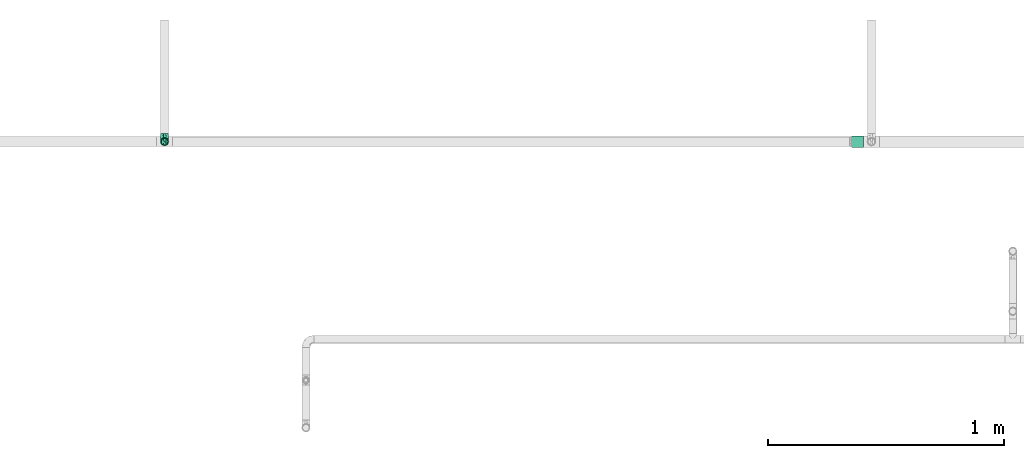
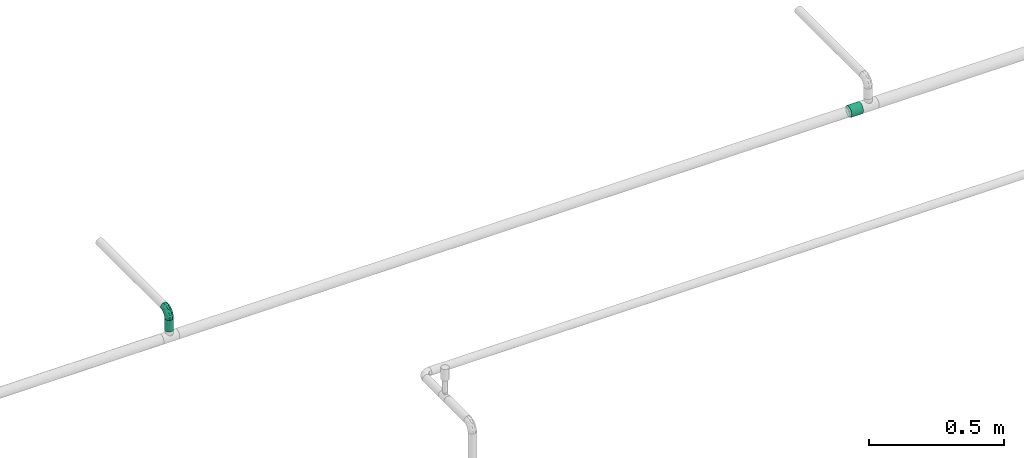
# One storey, part 29 of 51: 2 flow segments, 1 flow fitting.
"""IFC2X3 building model written with IfcOpenShell, lengths in millimetres."""

import ifcopenshell
import ifcopenshell.guid

model = None  # the IFC model being written
_history = None  # IfcOwnerHistory: only IFC2X3 demands one
_inside = {}  # id of a spatial element -> (the spatial element, [elements in it])
_under = {}  # id of a project, library or spatial element -> (it, [spatial elements below it])
_declared = {}  # id of a project -> (the project, [libraries it declares])
_typed = {}  # id of a type object -> (the type object, [elements of that type])
_made_of = {}  # id of a material, layer set ... -> (it, [elements and type objects made of it])


def new_model(schema):
    """Start an empty IFC model of exactly this schema.

    Asked for "IFC4X3", IfcOpenShell would pick the latest addendum, in which some entities
    have other attributes; the version numbers below select the first issue.
    IFC2X3 requires an IfcOwnerHistory on every rooted entity: one is made here for all.
    """
    global model, _history
    if schema == "IFC4X3":
        model = ifcopenshell.file(schema_version=(4, 3, 0, 0))
    else:
        model = ifcopenshell.file(schema=schema)
    _inside.clear()
    _under.clear()
    _declared.clear()
    _typed.clear()
    _made_of.clear()
    _history = None
    if model.schema == "IFC2X3":
        org = make("IfcOrganization", Name="unknown")
        user = make(
            "IfcPersonAndOrganization",
            ThePerson=make("IfcPerson", FamilyName="unknown"),
            TheOrganization=org,
        )
        app = make(
            "IfcApplication",
            ApplicationDeveloper=org,
            Version="unknown",
            ApplicationFullName="unknown",
            ApplicationIdentifier="unknown",
        )
        _history = make(
            "IfcOwnerHistory",
            OwningUser=user,
            OwningApplication=app,
            ChangeAction="ADDED",
            CreationDate=0,
        )
    return model


def make(cls, **values):
    """One entity of the class cls with the attributes given. An attribute that is None is left unset."""
    return model.create_entity(
        cls, **{name: value for name, value in values.items() if value is not None}
    )


def entity(cls, *values):
    """Any entity or typed value of the class cls, its attributes in the order of the schema. None: left unset."""
    e = model.create_entity(cls)
    for i, value in enumerate(values):
        if value is not None:
            e[i] = value
    return e


def rooted(cls, **values):
    """An entity with a GlobalId (a new one), such as an element, a storey or a relation."""
    return make(cls, GlobalId=ifcopenshell.guid.new(), OwnerHistory=_history, **values)


def si_unit(unit_type, name, prefix=None):
    """IfcSIUnit, for example si_unit("LENGTHUNIT", "METRE", prefix="MILLI")."""
    return make("IfcSIUnit", UnitType=unit_type, Prefix=prefix, Name=name)


def converted_unit(unit_type, name, factor, base, dimensions=None, offset=None):
    """IfcConversionBasedUnit, such as the inch: factor (a typed value) times the base unit."""
    return make(
        "IfcConversionBasedUnit"
        if offset is None
        else "IfcConversionBasedUnitWithOffset",
        ConversionOffset=offset,
        Dimensions=None
        if dimensions is None
        else entity("IfcDimensionalExponents", *dimensions),
        UnitType=unit_type,
        Name=name,
        ConversionFactor=make(
            "IfcMeasureWithUnit", ValueComponent=factor, UnitComponent=base
        ),
    )


def derived_unit(unit_type, elements):
    """IfcDerivedUnit: a product of units, each with its exponent."""
    return make(
        "IfcDerivedUnit",
        Elements=[
            make("IfcDerivedUnitElement", Unit=unit, Exponent=power)
            for unit, power in elements
        ],
        UnitType=unit_type,
    )


def assignment(units):
    """IfcUnitAssignment: the units of a project."""
    return None if units is None else make("IfcUnitAssignment", Units=units)


def point(xyz):
    """IfcCartesianPoint."""
    return None if xyz is None else make("IfcCartesianPoint", Coordinates=xyz)


def direction(xyz):
    """IfcDirection."""
    return None if xyz is None else make("IfcDirection", DirectionRatios=xyz)


def frame(location, z_axis=None, x_axis=None):
    """IfcAxis2Placement3D, a coordinate frame: its origin and axes. An axis left out is left unset."""
    return make(
        "IfcAxis2Placement3D",
        Location=point(location),
        Axis=direction(z_axis),
        RefDirection=direction(x_axis),
    )


def frame_2d(location, x_axis=None):
    """IfcAxis2Placement2D, a coordinate frame in the plane: its origin and x axis."""
    return make(
        "IfcAxis2Placement2D", Location=point(location), RefDirection=direction(x_axis)
    )


def origin_with_axes():
    """The frame at (0, 0, 0) with the z axis (0, 0, 1) and the x axis (1, 0, 0) written out."""
    return frame((0.0, 0.0, 0.0), z_axis=(0.0, 0.0, 1.0), x_axis=(1.0, 0.0, 0.0))


def origin_2d_with_axis():
    """The frame at (0, 0) in the plane with the x axis (1, 0) written out."""
    return frame_2d((0.0, 0.0), x_axis=(1.0, 0.0))


def place(relative_to, where):
    """IfcLocalPlacement: puts the frame where relative to a parent placement (None: the world)."""
    return make(
        "IfcLocalPlacement", PlacementRelTo=relative_to, RelativePlacement=where
    )


def context(
    kind, dimensions, precision=None, world=None, true_north=None, identifier=None
):
    """IfcGeometricRepresentationContext, for example the 3D "Model" context."""
    return make(
        "IfcGeometricRepresentationContext",
        ContextIdentifier=identifier,
        ContextType=kind,
        CoordinateSpaceDimension=dimensions,
        Precision=precision,
        WorldCoordinateSystem=world,
        TrueNorth=true_north,
    )


def subcontext(parent, identifier, kind, view, scale=None):
    """IfcGeometricRepresentationSubContext, for example "Body" below "Model"."""
    return make(
        "IfcGeometricRepresentationSubContext",
        ContextIdentifier=identifier,
        ContextType=kind,
        ParentContext=parent,
        TargetScale=scale,
        TargetView=view,
    )


def project(units=None, contexts=None):
    """IfcProject with its units and contexts."""
    return rooted(
        "IfcProject",
        Name="project",
        RepresentationContexts=contexts,
        UnitsInContext=assignment(units),
    )


def spatial(cls, under=None, at=None, **own):
    """A site, building, storey or space (cls), placed at a placement, below another one or the project."""
    s = rooted(cls, ObjectPlacement=at, **own)
    if under is not None:
        _under.setdefault(under.id(), (under, []))[1].append(s)
    return s


def profile(cls, at=None, kind="AREA", **sizes):
    """A parametric profile (cls). Its sizes go by their IFC names, for example OverallWidth=200.0."""
    return make(cls, ProfileType=kind, Position=at, **sizes)


def hollow_circle(**sizes):
    """IfcCircleHollowProfileDef."""
    return profile("IfcCircleHollowProfileDef", **sizes)


def extrude(swept, where, along, depth):
    """IfcExtrudedAreaSolid: the profile swept, set in the frame where, extruded along a direction by depth."""
    return make(
        "IfcExtrudedAreaSolid",
        SweptArea=swept,
        Position=where,
        ExtrudedDirection=direction(along),
        Depth=depth,
    )


def faces_of(points, faces, orient=None, outer=None):
    """IfcFace entities. A face is a list of loops; a loop is a list of indices into points, from 0.

    orient and outer hold one flag for each loop. By default every Orientation is true, the
    first loop of a face is its IfcFaceOuterBound and the others are IfcFaceBound.
    """
    made = []
    for i, loops in enumerate(faces):
        bounds = []
        for j, loop in enumerate(loops):
            is_outer = j == 0 if outer is None else outer[i][j]
            bounds.append(
                make(
                    "IfcFaceOuterBound" if is_outer else "IfcFaceBound",
                    Bound=make("IfcPolyLoop", Polygon=[points[k] for k in loop]),
                    Orientation=True if orient is None else orient[i][j],
                )
            )
        made.append(make("IfcFace", Bounds=bounds))
    return made


def open_shell(faces, orient=None, outer=None):
    """The faces of one IfcOpenShell. surface_model builds it on its shared points."""
    return ("IfcOpenShell", faces, orient, outer)


def surface_model(cls, points, shells):
    """IfcFaceBasedSurfaceModel or IfcShellBasedSurfaceModel (cls): surfaces that need not close."""
    shared = [point(p) for p in points]
    made = [make(c, CfsFaces=faces_of(shared, fs, o, b)) for c, fs, o, b in shells]
    if cls == "IfcFaceBasedSurfaceModel":
        return make(cls, FbsmFaces=made)
    return make(cls, SbsmBoundary=made)


def shape(context_of_items, identifier, shape_type, items):
    """IfcShapeRepresentation: the items that make up one representation, for example the "Body"."""
    return make(
        "IfcShapeRepresentation",
        ContextOfItems=context_of_items,
        RepresentationIdentifier=identifier,
        RepresentationType=shape_type,
        Items=items,
    )


def source(mapping_origin, context_of_items, identifier, shape_type, items):
    """IfcRepresentationMap: a shape defined once, which mapped items show again and again."""
    return make(
        "IfcRepresentationMap",
        MappingOrigin=mapping_origin,
        MappedRepresentation=shape(context_of_items, identifier, shape_type, items),
    )


def transform(
    local_origin,
    x_axis=None,
    y_axis=None,
    z_axis=None,
    scale=None,
    scale2=None,
    scale3=None,
    uniform=True,
):
    """IfcCartesianTransformationOperator3D, or its non-uniform kind. x_axis, y_axis, z_axis: its Axis1, 2, 3."""
    if uniform:
        return make(
            "IfcCartesianTransformationOperator3D",
            Axis1=direction(x_axis),
            Axis2=direction(y_axis),
            LocalOrigin=point(local_origin),
            Scale=scale,
            Axis3=direction(z_axis),
        )
    return make(
        "IfcCartesianTransformationOperator3DnonUniform",
        Axis1=direction(x_axis),
        Axis2=direction(y_axis),
        LocalOrigin=point(local_origin),
        Scale=scale,
        Axis3=direction(z_axis),
        Scale2=scale2,
        Scale3=scale3,
    )


def mapped(mapping_source, mapping_target):
    """IfcMappedItem: shows the shape of a source again, moved by a transform."""
    return make(
        "IfcMappedItem", MappingSource=mapping_source, MappingTarget=mapping_target
    )


def made_of(thing, what):
    """Note that an element or type object is made of a material, layer set ...; save() writes the relation."""
    if what is not None:
        _made_of.setdefault(what.id(), (what, []))[1].append(thing)
    return thing


def type_object(cls, material=None, **own):
    """A type object (cls), such as IfcWallType, which elements share."""
    return made_of(rooted(cls, **own), material)


def element(
    cls,
    number,
    at=None,
    inside=None,
    cuts=None,
    type_object=None,
    material=None,
    context=None,
    identifier="Body",
    shape_type=None,
    held_by="IfcProductDefinitionShape",
    body=None,
    shapes=None,
    **own,
):
    """One element of the class cls, such as IfcWall. Its Tag is "e" and its number.

    at: its placement. inside: the storey or other place that contains it. cuts: it is an
    opening in that element (IfcRelVoidsElement). A single representation is given by context,
    identifier, shape_type and body (its items); several are given by shapes. held_by: the class
    of the entity that holds the representations. save() writes the other relations.
    """
    e = rooted(cls, Tag="e%d" % number, ObjectPlacement=at, **own)
    if body is not None:
        shapes = [shape(context, identifier, shape_type, body)]
    if shapes is not None:
        e.Representation = make(held_by, Representations=shapes)
    if inside is not None:
        _inside.setdefault(inside.id(), (inside, []))[1].append(e)
    if cuts is not None:
        rooted(
            "IfcRelVoidsElement", RelatingBuildingElement=cuts, RelatedOpeningElement=e
        )
    if type_object is not None:
        _typed.setdefault(type_object.id(), (type_object, []))[1].append(e)
    return made_of(e, material)


def aggregate(whole, parts):
    """IfcRelAggregates: a whole, such as a stair, and the parts it consists of."""
    return rooted("IfcRelAggregates", RelatingObject=whole, RelatedObjects=parts)


def save(model, path):
    """Write the relations noted so far, then the file.

    IfcRelAggregates (storeys below a building ...), IfcRelContainedInSpatialStructure (elements
    in a storey), IfcRelDefinesByType, IfcRelAssociatesMaterial and IfcRelDeclares: one each for
    every whole, place, type object, material and project.
    """
    for whole, parts in _under.values():
        aggregate(whole, parts)
    for where, things in _inside.values():
        rooted(
            "IfcRelContainedInSpatialStructure",
            RelatedElements=things,
            RelatingStructure=where,
        )
    for kind, things in _typed.values():
        rooted("IfcRelDefinesByType", RelatedObjects=things, RelatingType=kind)
    for what, things in _made_of.values():
        rooted("IfcRelAssociatesMaterial", RelatedObjects=things, RelatingMaterial=what)
    for by, libraries in _declared.values():
        rooted("IfcRelDeclares", RelatingContext=by, RelatedDefinitions=libraries)
    model.write(path)


model = new_model("IFC2X3")

# Units and contexts
model_context = context("Model", 3, precision=0.01, world=frame((0.0, 4.29681676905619e-09, 0.0)), true_north=direction((4.01073788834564e-13, 1.0)))
plan_context = context("Plan", 3, precision=0.01, world=frame((0.0, 4.29681676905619e-09, 0.0)), true_north=direction((4.01073788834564e-13, 1.0)))
body_context = subcontext(model_context, "Body", "Model", "MODEL_VIEW")
ifc_project = project(units=[converted_unit("PLANEANGLEUNIT", "DEGREE", entity("IfcPositiveLengthMeasure", 0.0174532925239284), si_unit("PLANEANGLEUNIT", "RADIAN"), dimensions=[0, 0, 0, 0, 0, 0, 0]), si_unit("AREAUNIT", "SQUARE_METRE"), si_unit("LENGTHUNIT", "METRE", prefix="MILLI"), si_unit("MASSUNIT", "GRAM", prefix="KILO"), si_unit("POWERUNIT", "WATT"), si_unit("PRESSUREUNIT", "PASCAL"), si_unit("FORCEUNIT", "NEWTON", prefix="KILO"), si_unit("ELECTRICVOLTAGEUNIT", "VOLT"), si_unit("ELECTRICCURRENTUNIT", "AMPERE"), si_unit("THERMODYNAMICTEMPERATUREUNIT", "DEGREE_CELSIUS"), si_unit("TIMEUNIT", "SECOND"), si_unit("VOLUMEUNIT", "CUBIC_METRE"), derived_unit("LINEARVELOCITYUNIT", [(si_unit("LENGTHUNIT", "METRE"), 1), (si_unit("TIMEUNIT", "SECOND"), -1)]), derived_unit("VOLUMETRICFLOWRATEUNIT", [(si_unit("VOLUMEUNIT", "CUBIC_METRE"), 1), (si_unit("TIMEUNIT", "SECOND"), -1)]), derived_unit("THERMALTRANSMITTANCEUNIT", [(si_unit("POWERUNIT", "WATT"), 1), (si_unit("THERMODYNAMICTEMPERATUREUNIT", "KELVIN"), -1), (si_unit("AREAUNIT", "SQUARE_METRE"), -1)]), derived_unit("SOUNDPRESSUREUNIT", [(si_unit("PRESSUREUNIT", "PASCAL"), 1)])], contexts=[model_context, plan_context])

# Site, building, storey
site_placement = place(None, frame((0.0, -4.29681676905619e-09, 0.0), z_axis=(0.0, 0.0, 1.0), x_axis=(1.0, 0.0, 0.0)))
site = spatial("IfcSite", under=ifc_project, at=site_placement, Name="ENGM", CompositionType="ELEMENT")
building_placement = place(site_placement, frame((0.0, 4.29681676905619e-09, 0.0), z_axis=(0.0, 0.0, 1.0), x_axis=(1.0, 0.0, 0.0)))
building = spatial("IfcBuilding", under=site, at=building_placement, Name="TH", CompositionType="ELEMENT")
storey_placement = place(building_placement, frame((0.0, 0.0, 210200.0), z_axis=(0.0, 0.0, 1.0), x_axis=(1.0, 0.0, 0.0)))
storey = spatial("IfcBuildingStorey", under=building, at=storey_placement, Name="Nivå F - 0,7 m", CompositionType="ELEMENT", Elevation=210200.0)

# Flow fitting
pipe_fitting_type = type_object("IfcPipeFittingType", Name="magi_pipe_fe_elbow_short_001", PredefinedType="BEND")
shared_shape_1 = source(origin_with_axes(), body_context, "Body", "SurfaceModel", [
    surface_model("IfcShellBasedSurfaceModel", [(-33.8, 8.45, -14.63583), (-33.8, 4.37404, -16.32415), (-33.8, 11.9501, -11.9501), (-33.8, -11.9501, -11.9501), (-33.8, -14.63583, -8.45), (-33.8, -8.45, -14.63583), (-33.8, 0.0, -16.9), (-33.8, -4.37404, -16.32415), (-33.8, -4.37404, 16.32415), (-33.8, 0.0, 16.9), (-33.8, -8.45, 14.63583), (-33.8, 16.32415, -4.37404), (-33.8, 14.63583, -8.45), (-33.8, -16.32415, -4.37404), (-33.8, -16.9, 0.0), (-33.8, -16.32415, 4.37404), (-33.8, 11.9501, 11.9501), (-33.8, 14.63583, 8.45), (-33.8, 16.32415, 4.37404), (-33.8, 4.37404, 16.32415), (-33.8, 8.45, 14.63583), (-33.8, -14.63583, 8.45), (-33.8, -11.9501, 11.9501), (-33.8, 16.9, 0.0), (-11.9501, 33.8, -11.9501), (0.0, 33.8, -16.9), (-4.37404, 33.8, -16.32415), (-8.45, 33.8, -14.63583), (-14.63583, 33.8, -8.45), (-16.32415, 33.8, -4.37404), (14.63583, 33.8, -8.45), (8.45, 33.8, 14.63583), (16.32415, 33.8, -4.37404), (8.45, 33.8, -14.63583), (11.9501, 33.8, -11.9501), (4.37404, 33.8, -16.32415), (16.32415, 33.8, 4.37404), (16.9, 33.8, 0.0), (-11.9501, 33.8, 11.9501), (-16.32415, 33.8, 4.37404), (-14.63583, 33.8, 8.45), (-8.45, 33.8, 14.63583), (-4.37404, 33.8, 16.32415), (11.9501, 33.8, 11.9501), (14.63583, 33.8, 8.45), (0.0, 33.8, 16.9), (4.37404, 33.8, 16.32415), (-16.9, 33.8, 0.0), (-24.79389, -13.12945, 9.48721), (-22.19287, -9.75018, 12.59315), (-24.09897, -14.97035, 0.0), (-14.93934, -10.76256, 8.5297), (-22.46095, -14.75051, 5.27077), (14.75051, 22.46094, 5.27077), (11.9251, 13.23888, 4.33236), (13.04069, 14.39795, 0.0), (7.71387, 13.68847, 11.55891), (9.75018, 22.19287, 12.59315), (4.10169, 13.0571, 14.04018), (-24.84007, -6.39063, 15.2048), (-25.81779, -2.23879, 16.61097), (-23.66549, 2.59054, 16.87119), (-26.50418, 14.06512, 11.08152), (-24.21253, 17.66365, 7.72657), (-29.58514, 15.86957, 7.00283), (-6.17382, -7.5455, 0.0), (-13.23888, -11.9251, 4.33236), (-14.39795, -13.04069, 0.0), (-17.81434, 18.87373, 11.97104), (-6.30846, 29.15138, 15.82987), (-2.31622, 25.28002, 16.85849), (-29.23923, 10.23435, 13.77053), (-1.45439, -2.85688, 7.61475), (-0.28326, 0.34872, 10.09509), (-5.74484, -4.04709, 10.4122), (-4.41137, 11.31918, 16.59407), (-8.39727, 3.10034, 15.7812), (-1.72649, 9.1306, 15.53089), (-17.39909, 24.75344, 7.64977), (-26.19233, 20.0512, 0.0), (-28.14518, 17.29657, 4.25857), (-26.05147, 6.6281, 15.96447), (-5.87354, 16.61944, 16.86968), (-12.51807, 12.51807, 16.48937), (-10.06312, 7.38516, 16.81295), (-3.01882, 3.01882, 13.81718), (-13.0571, -4.10169, 14.04018), (-16.82553, -0.15166, 16.38038), (10.76256, 14.93934, 8.5297), (13.12945, 24.79389, 9.48721), (6.39063, 24.84007, 15.2048), (2.23879, 25.81779, 16.61097), (-13.68847, -7.71387, 11.55891), (14.97035, 24.09897, 0.0), (-7.30894, 22.89991, 16.09489), (-10.67958, 26.17414, 14.008), (-12.78295, 18.26924, 15.06066), (-13.88562, 22.45231, 12.93244), (-18.04944, 15.16501, 14.04434), (-23.11658, 20.08178, 4.02986), (-21.84989, 21.84989, 0.0), (-18.55817, 25.48277, 3.93065), (-13.95142, 26.94732, 11.03289), (-18.57098, 7.23906, 16.59756), (-16.58335, 4.14122, 16.89279), (-17.96666, 11.46709, 15.63151), (-9.84453, 17.54304, 16.18938), (0.15166, 16.82553, 16.38038), (-23.27207, 11.47201, 14.23154), (3.84842, 5.86994, 10.70473), (-8.0212, -7.54413, 7.93275), (1.00345, -2.19508, 4.57414), (5.13203, 3.01004, 5.90201), (5.24161, 1.7543, 2.53265), (8.70457, 7.04947, 3.99182), (-20.0512, 26.19233, 0.0), (8.4852, 8.76699, 7.09296), (-4.55488, -6.72064, 4.90681), (2.05031, -2.05031, 0.0), (7.5455, 6.17382, 0.0), (-26.75399, 2.1369, -16.845), (-14.61995, 24.73803, -11.27736), (-28.45274, -13.45335, -9.81895), (-26.00469, 6.63555, -15.96645), (-23.06726, 20.04573, -4.26202), (-13.80647, -4.26506, -14.17873), (-14.67501, -0.21081, -16.07388), (-6.7902, -0.2828, -13.8478), (-24.53586, 11.08096, -14.13417), (-26.72048, 14.00837, -11.05776), (10.0967, 24.44989, -12.75976), (5.83237, 21.40218, -15.03047), (6.66249, 28.54238, -15.38093), (-20.38182, 15.48705, -12.74596), (12.53268, 21.23441, -9.15363), (12.54494, 15.67504, -5.54878), (9.7522, 12.89279, -8.66343), (-15.65186, 19.64213, -13.01327), (-12.03528, 20.66498, -14.67665), (-15.61907, 15.61906, -14.83879), (-25.56551, -15.26206, 0.0), (-24.65452, -15.12934, -5.50955), (13.45335, 28.45274, -9.81895), (15.12934, 24.65452, -5.50955), (-7.35442, -8.31014, -5.65563), (-15.67504, -12.54494, -5.54878), (-24.44989, -10.0967, -12.75976), (0.16522, 0.41303, -9.71728), (-5.70658, -5.33066, -8.89288), (-5.13869, -2.37198, -11.53565), (-21.23441, -12.53268, -9.15363), (0.71146, 7.93863, -14.09382), (0.21081, 14.67501, -16.07388), (3.49291, 14.42772, -14.76381), (-24.89911, -2.13088, -16.591), (-28.54238, -6.66249, -15.38093), (-18.44386, -7.71663, -13.26957), (2.13088, 24.89911, -16.591), (-28.64342, 17.44413, -2.89318), (1.70017, -1.28722, -5.09504), (-16.57067, 26.81947, -7.36596), (-17.69055, 27.4263, -3.76405), (-12.89279, -9.7522, -8.66343), (-5.96611, 5.96611, -15.95814), (-20.53709, 20.09345, -8.28985), (-2.1369, 26.75399, -16.845), (-6.89872, 24.58781, -16.02578), (-10.60739, 26.53157, -13.98044), (-21.40218, -5.83237, -15.03047), (2.93192, 5.89627, -11.55917), (6.89393, 12.61842, -11.82233), (5.58056, 5.95325, -8.79455), (-3.99512, 18.61798, -16.89635), (8.31014, 7.35442, -5.65563), (-9.1383, 9.86148, -16.89041), (-9.99983, 16.02119, -16.39699), (-16.68576, 9.78031, -16.34199), (-27.01915, 16.61158, -7.12979), (15.26206, 25.56551, 0.0), (-18.61798, 3.99512, -16.89635), (-19.37495, 27.82495, 0.0), (-12.61842, -6.89393, -11.82233), (-18.84705, 19.14018, -10.96545)], [open_shell([[[0, 1, 2]], [[3, 4, 5]], [[6, 7, 5]], [[8, 9, 10]], [[1, 6, 2]], [[11, 12, 2]], [[4, 2, 6]], [[2, 13, 10]], [[5, 4, 6]], [[2, 4, 13]], [[14, 15, 13]], [[11, 2, 16]], [[11, 17, 18]], [[11, 16, 17]], [[19, 20, 16]], [[16, 2, 10]], [[19, 16, 10]], [[21, 22, 15]], [[22, 13, 15]], [[22, 10, 13]], [[10, 9, 19]], [[11, 18, 23]], [[24, 25, 26]], [[24, 26, 27]], [[24, 28, 29]], [[25, 24, 30]], [[31, 32, 24]], [[33, 30, 34]], [[33, 35, 25]], [[25, 30, 33]], [[32, 30, 24]], [[32, 36, 37]], [[38, 24, 29]], [[39, 40, 29]], [[40, 38, 29]], [[38, 41, 42]], [[38, 31, 24]], [[31, 38, 42]], [[36, 43, 44]], [[36, 32, 43]], [[31, 45, 46]], [[32, 31, 43]], [[42, 45, 31]], [[39, 29, 47]], [[22, 48, 49]], [[15, 14, 50]], [[51, 48, 52]], [[53, 54, 55]], [[48, 22, 21]], [[15, 52, 21]], [[56, 57, 58]], [[49, 10, 22]], [[49, 59, 10]], [[9, 60, 61]], [[62, 63, 64]], [[65, 66, 67]], [[57, 43, 31]], [[62, 68, 63]], [[42, 69, 70]], [[20, 71, 16]], [[8, 60, 9]], [[72, 73, 74]], [[75, 76, 77]], [[16, 62, 17]], [[40, 39, 78]], [[79, 23, 80]], [[64, 18, 17]], [[9, 61, 19]], [[19, 81, 20]], [[82, 83, 84]], [[74, 85, 86]], [[59, 86, 87]], [[88, 89, 57]], [[90, 31, 46]], [[44, 53, 36]], [[46, 45, 91]], [[54, 53, 88]], [[44, 89, 53]], [[92, 86, 49]], [[89, 44, 43]], [[10, 59, 8]], [[53, 55, 93]], [[93, 36, 53]], [[66, 52, 67]], [[94, 82, 70]], [[95, 96, 94]], [[97, 98, 96]], [[79, 99, 100]], [[41, 38, 95]], [[101, 100, 99]], [[68, 78, 63]], [[42, 41, 69]], [[23, 18, 80]], [[95, 94, 69]], [[78, 101, 99]], [[38, 102, 95]], [[70, 45, 42]], [[97, 95, 102]], [[15, 50, 52]], [[90, 57, 31]], [[57, 90, 58]], [[81, 19, 61]], [[103, 104, 84]], [[105, 81, 103]], [[38, 40, 102]], [[106, 96, 83]], [[94, 106, 82]], [[91, 70, 107]], [[71, 62, 16]], [[62, 108, 98]], [[86, 59, 49]], [[67, 52, 50]], [[60, 59, 87]], [[92, 49, 51]], [[86, 85, 76]], [[91, 90, 46]], [[37, 36, 93]], [[107, 77, 58]], [[107, 58, 90]], [[58, 85, 109]], [[110, 74, 92]], [[72, 74, 110]], [[66, 51, 52]], [[72, 111, 112]], [[113, 114, 112]], [[56, 88, 57]], [[52, 48, 21]], [[49, 48, 51]], [[57, 89, 43]], [[53, 89, 88]], [[103, 81, 61]], [[71, 81, 108]], [[18, 64, 80]], [[63, 78, 99]], [[47, 115, 101]], [[101, 115, 100]], [[40, 78, 102]], [[68, 102, 78]], [[97, 96, 95]], [[105, 98, 108]], [[103, 84, 83]], [[107, 70, 82]], [[76, 84, 87]], [[82, 84, 75]], [[70, 91, 45]], [[90, 91, 107]], [[59, 60, 8]], [[61, 60, 87]], [[73, 85, 74]], [[109, 112, 116]], [[103, 61, 104]], [[105, 103, 83]], [[96, 105, 83]], [[81, 105, 108]], [[96, 98, 105]], [[62, 98, 68]], [[61, 87, 104]], [[87, 84, 104]], [[86, 76, 87]], [[77, 76, 85]], [[58, 77, 85]], [[75, 77, 107]], [[82, 75, 107]], [[76, 75, 84]], [[81, 71, 20]], [[62, 71, 108]], [[95, 69, 41]], [[70, 69, 94]], [[62, 64, 17]], [[80, 63, 99]], [[63, 80, 64]], [[80, 99, 79]], [[66, 65, 117]], [[110, 66, 117]], [[112, 114, 116]], [[118, 117, 65]], [[110, 92, 51]], [[112, 111, 113]], [[119, 55, 54]], [[74, 86, 92]], [[58, 109, 56]], [[116, 56, 109]], [[66, 110, 51]], [[72, 110, 117]], [[111, 72, 117]], [[73, 112, 109]], [[117, 118, 111]], [[113, 111, 118]], [[118, 119, 113]], [[114, 119, 54]], [[119, 114, 113]], [[116, 54, 88]], [[54, 116, 114]], [[116, 88, 56]], [[112, 73, 72]], [[85, 73, 109]], [[78, 39, 101]], [[47, 101, 39]], [[102, 68, 97]], [[97, 68, 98]], [[82, 106, 83]], [[94, 96, 106]], [[1, 120, 6]], [[28, 24, 121]], [[3, 122, 4]], [[0, 123, 1]], [[100, 124, 79]], [[125, 126, 127]], [[128, 2, 129]], [[130, 131, 132]], [[128, 129, 133]], [[134, 135, 136]], [[137, 138, 139]], [[128, 0, 2]], [[67, 140, 141]], [[134, 142, 143]], [[141, 13, 4]], [[144, 65, 145]], [[146, 3, 5]], [[147, 148, 149]], [[145, 141, 150]], [[151, 152, 153]], [[154, 7, 6]], [[5, 155, 146]], [[150, 146, 156]], [[155, 5, 7]], [[143, 135, 134]], [[35, 157, 25]], [[23, 79, 158]], [[148, 159, 144]], [[160, 161, 29]], [[145, 162, 144]], [[163, 152, 151]], [[29, 28, 160]], [[121, 164, 160]], [[33, 34, 130]], [[25, 165, 26]], [[26, 165, 166]], [[142, 34, 30]], [[24, 27, 167]], [[124, 161, 164]], [[157, 35, 132]], [[155, 154, 168]], [[123, 0, 128]], [[169, 170, 171]], [[172, 157, 152]], [[26, 166, 27]], [[132, 35, 33]], [[142, 130, 34]], [[168, 154, 126]], [[136, 135, 173]], [[133, 137, 139]], [[2, 12, 129]], [[170, 131, 130]], [[30, 32, 143]], [[172, 174, 175]], [[176, 123, 128]], [[158, 177, 11]], [[135, 55, 119]], [[167, 27, 166]], [[175, 166, 172]], [[137, 167, 138]], [[122, 141, 4]], [[140, 14, 13]], [[32, 37, 178]], [[170, 130, 134]], [[152, 157, 131]], [[165, 157, 172]], [[153, 170, 151]], [[152, 163, 174]], [[168, 125, 156]], [[122, 146, 150]], [[120, 154, 6]], [[179, 174, 126]], [[179, 126, 154]], [[126, 163, 127]], [[162, 145, 150]], [[140, 13, 141]], [[32, 178, 143]], [[55, 143, 178]], [[177, 129, 12]], [[128, 133, 139]], [[176, 128, 139]], [[120, 123, 179]], [[121, 160, 28]], [[161, 100, 180]], [[166, 175, 138]], [[121, 24, 167]], [[161, 47, 29]], [[79, 124, 158]], [[124, 164, 177]], [[161, 124, 100]], [[136, 171, 170]], [[127, 163, 151]], [[147, 171, 159]], [[148, 144, 162]], [[127, 151, 169]], [[127, 181, 125]], [[129, 177, 164]], [[12, 11, 177]], [[159, 65, 144]], [[67, 141, 145]], [[143, 55, 135]], [[135, 119, 173]], [[123, 120, 1]], [[154, 120, 179]], [[157, 165, 25]], [[166, 165, 172]], [[172, 152, 174]], [[176, 139, 175]], [[126, 174, 163]], [[176, 174, 179]], [[174, 176, 175]], [[123, 176, 179]], [[150, 181, 162]], [[127, 149, 181]], [[181, 148, 162]], [[159, 148, 147]], [[171, 136, 173]], [[170, 134, 136]], [[159, 171, 173]], [[171, 147, 169]], [[169, 147, 149]], [[151, 170, 169]], [[164, 182, 129]], [[182, 121, 137]], [[181, 149, 148]], [[169, 149, 127]], [[182, 137, 133]], [[167, 137, 121]], [[166, 138, 167]], [[175, 139, 138]], [[129, 182, 133]], [[121, 182, 164]], [[161, 160, 164]], [[47, 161, 180]], [[177, 158, 124]], [[23, 158, 11]], [[130, 132, 33]], [[157, 132, 131]], [[143, 142, 30]], [[130, 142, 134]], [[154, 155, 7]], [[146, 155, 168]], [[146, 122, 3]], [[141, 122, 150]], [[152, 131, 153]], [[159, 119, 118]], [[67, 145, 65]], [[170, 153, 131]], [[119, 159, 173]], [[159, 118, 65]], [[156, 125, 181]], [[126, 125, 168]], [[150, 156, 181]], [[168, 156, 146]]])]),
])
flow_fitting_placement = place(storey_placement, frame((896499.91443, 487040.10129, 2938.32088000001), z_axis=(-1.0, 0.0, 0.0), x_axis=(0.0, 0.0, 1.0)))
element("IfcFlowFitting", 1, at=flow_fitting_placement, inside=storey, type_object=pipe_fitting_type, Name="magi_pipe_fe_elbow_short_001", context=body_context, shape_type="MappedRepresentation", body=[
    mapped(shared_shape_1, transform((0.0, 0.0, 0.0), scale=1.0)),
])

# Flow segments
pipe_segment_type = type_object("IfcPipeSegmentType", Name="Stålrør normaltykke", PredefinedType="RIGIDSEGMENT")
shared_shape_2 = source(origin_with_axes(), body_context, "Body", "SweptSolid", [
    extrude(hollow_circle(Radius=24.1, WallThickness=2.0, at=origin_2d_with_axis()), frame((0.0, 0.0, 0.0), z_axis=(1.0, 0.0, 0.0), x_axis=(0.0, 1.0, 0.0)), (0.0, 0.0, 1.0), 50.1),
])
flow_segment_1_placement = place(storey_placement, frame((899466.11443, 487040.10129, 2819.99995999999), z_axis=(0.0, 0.0, 1.0), x_axis=(-1.0, 0.0, 0.0)))
element("IfcFlowSegment", 2, at=flow_segment_1_placement, inside=storey, type_object=pipe_segment_type, Name="Stålrør normaltykke", context=body_context, shape_type="MappedRepresentation", body=[
    mapped(shared_shape_2, transform((0.0, 0.0, 0.0), scale=1.0)),
])
shared_shape_3 = source(origin_with_axes(), body_context, "Body", "SweptSolid", [
    extrude(hollow_circle(Radius=16.9, WallThickness=2.0, at=origin_2d_with_axis()), frame((0.0, 0.0, 0.0), z_axis=(1.0, 0.0, 0.0), x_axis=(0.0, 1.0, 0.0)), (0.0, 0.0, 1.0), 52.7),
])
flow_segment_2_placement = place(storey_placement, frame((896499.91443, 487040.10129, 2851.79996), z_axis=(0.0, -1.0, 0.0), x_axis=(0.0, 0.0, 1.0)))
element("IfcFlowSegment", 3, at=flow_segment_2_placement, inside=storey, type_object=pipe_segment_type, Name="Stålrør normaltykke", context=body_context, shape_type="MappedRepresentation", body=[
    mapped(shared_shape_3, transform((0.0, 0.0, 0.0), scale=1.0)),
])

save(model, "model.ifc")
